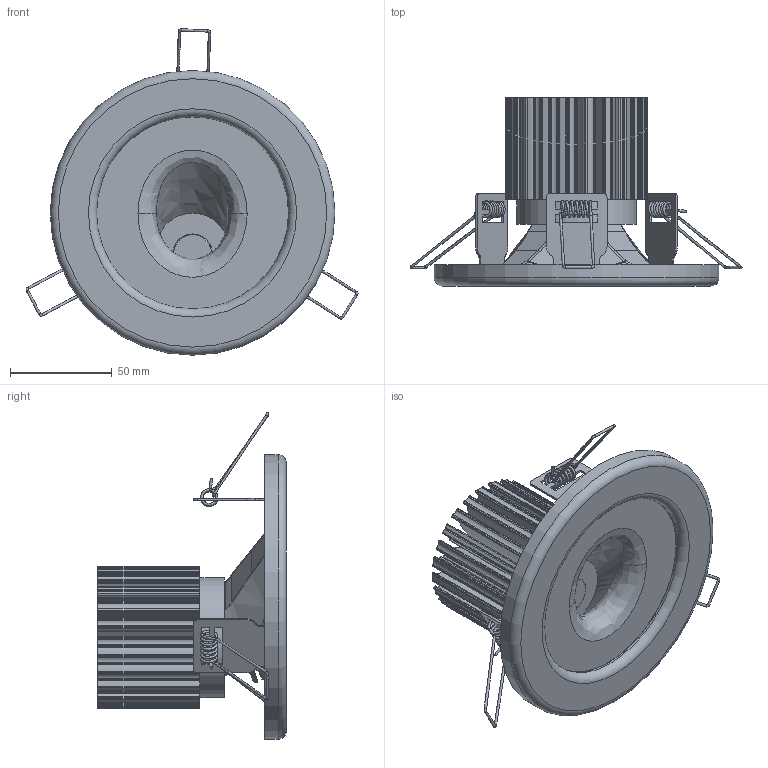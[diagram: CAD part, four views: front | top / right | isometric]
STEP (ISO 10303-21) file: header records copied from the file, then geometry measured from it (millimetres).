
FILE_DESCRIPTION(/* description */ (''),/* implementation_level */ '2;1');
FILE_NAME(/* name */ 'C:/Users/elena/OneDrive/Allegati di posta elettronica/Desktop/iride enterprise.step',/* time_stamp */ '2020-05-11T17:04:16+02:00',/* author */ (''),/* organization */ (''),/* preprocessor_version */ 'ST-DEVELOPER v18.1',/* originating_system */ 'Autodesk Translation Framework v9.2.0.1227',/* authorisation */ '');
FILE_SCHEMA (('AUTOMOTIVE_DESIGN { 1 0 10303 214 3 1 1 }'));
Products named in the file (1): (Unsaved)
Bounding box: 163.25 x 92.61 x 160.54 mm (x, y, z)
Volume: 238498.6 mm3; surface area: 149426.9 mm2
Topology: 7 solids, 8 shells, 1389 faces, 3939 edges, 2579 vertices
Faces by surface type: cylinder 757, bspline 344, plane 257, torus 19, cone 10, sphere 2
Full cylindrical faces by diameter (mm): 1.2 x3, 3 x6, 3.1 x6, 59 x1, 94.4 x1, 111.2 x1, 125.5 x1, 125.7 x1, 140 x1
Entity records: 107417 total; most frequent: CARTESIAN_POINT 72484, ORIENTED_EDGE 7874, DIRECTION 6754, EDGE_CURVE 3937, AXIS2_PLACEMENT_3D 2623, VERTEX_POINT 2579, LINE 1508, VECTOR 1508
